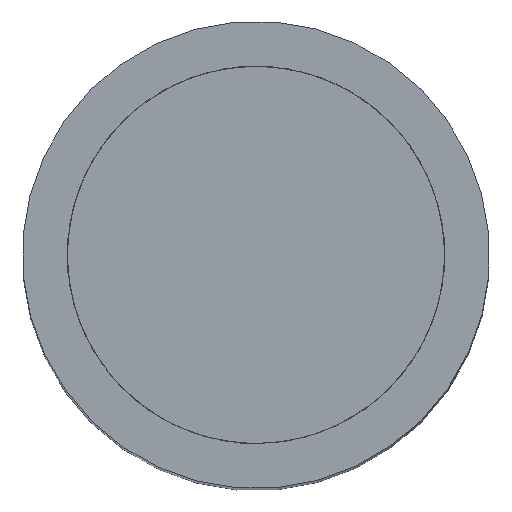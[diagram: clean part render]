
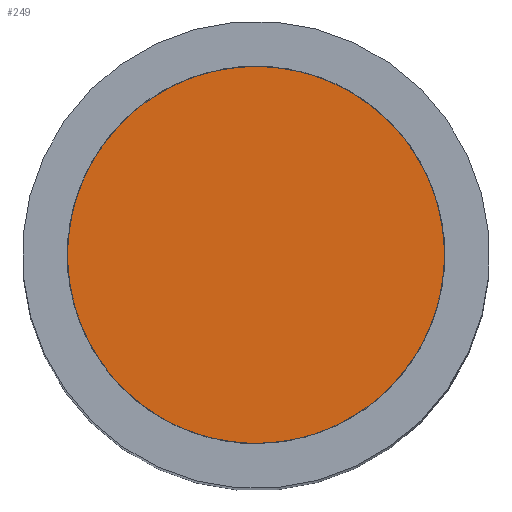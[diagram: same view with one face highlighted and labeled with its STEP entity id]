
A CAD part, top view. The second image highlights one B-rep face of the part: STEP entity #249.
In plain terms, the highlighted planar face has unit normal (0, 0, 1).
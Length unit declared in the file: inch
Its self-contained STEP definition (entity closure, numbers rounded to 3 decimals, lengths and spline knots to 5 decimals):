
#11 = DIRECTION ( 'NONE',  ( 0., 0., 1. ) ) ;
#16 = PLANE ( 'NONE',  #281 ) ;
#17 = DIRECTION ( 'NONE',  ( 0., 0., 1. ) ) ;
#23 = CIRCLE ( 'NONE', #214, 0.07575 ) ;
#44 = CIRCLE ( 'NONE', #88, 0.07575 ) ;
#68 = EDGE_CURVE ( 'NONE', #240, #264, #23, .T. ) ;
#69 = DIRECTION ( 'NONE',  ( 1., 0., 0. ) ) ;
#79 = CARTESIAN_POINT ( 'NONE',  ( 0.0518, -0.02945, 0.125 ) ) ;
#88 = AXIS2_PLACEMENT_3D ( 'NONE', #79, #17, #212 ) ;
#93 = CARTESIAN_POINT ( 'NONE',  ( -0.02395, -0.02945, 0.125 ) ) ;
#100 = DIRECTION ( 'NONE',  ( 0.996, 0.092, 0. ) ) ;
#114 = EDGE_LOOP ( 'NONE', ( #204, #148 ) ) ;
#129 = CARTESIAN_POINT ( 'NONE',  ( 0.12755, -0.02945, 0.125 ) ) ;
#148 = ORIENTED_EDGE ( 'NONE', *, *, #68, .T. ) ;
#156 = CARTESIAN_POINT ( 'NONE',  ( 0.0518, -0.02945, 0.125 ) ) ;
#181 = FACE_OUTER_BOUND ( 'NONE', #114, .T. ) ;
#204 = ORIENTED_EDGE ( 'NONE', *, *, #266, .T. ) ;
#212 = DIRECTION ( 'NONE',  ( 1., 0., 0. ) ) ;
#214 = AXIS2_PLACEMENT_3D ( 'NONE', #156, #11, #69 ) ;
#231 = DIRECTION ( 'NONE',  ( 0., 0., 1. ) ) ;
#240 = VERTEX_POINT ( 'NONE', #129 ) ;
#249 = ADVANCED_FACE ( 'NONE', ( #181 ), #16, .T. ) ;
#264 = VERTEX_POINT ( 'NONE', #93 ) ;
#266 = EDGE_CURVE ( 'NONE', #264, #240, #44, .T. ) ;
#281 = AXIS2_PLACEMENT_3D ( 'NONE', #297, #231, #100 ) ;
#297 = CARTESIAN_POINT ( 'NONE',  ( 0.0518, -0.02945, 0.125 ) ) ;
